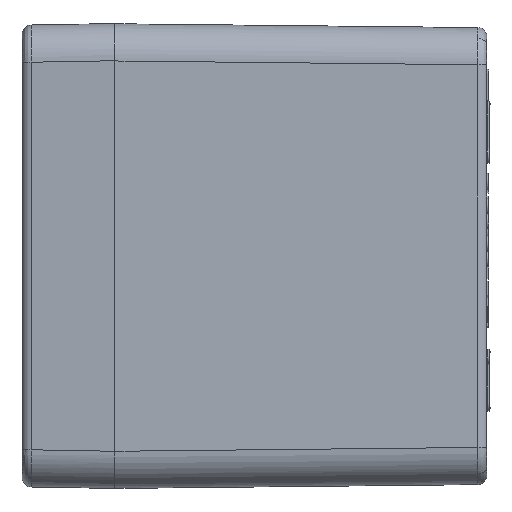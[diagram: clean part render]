
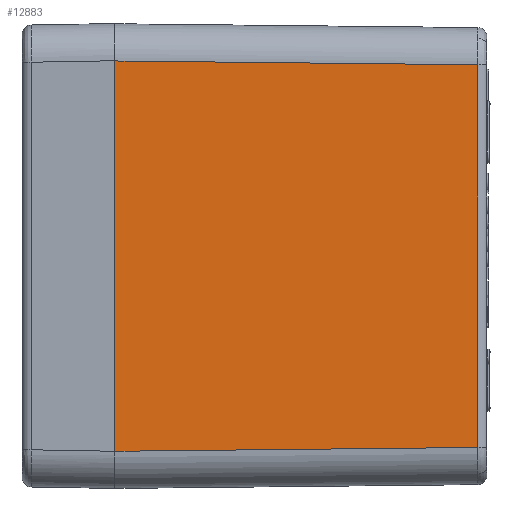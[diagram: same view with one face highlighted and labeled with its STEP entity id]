
A CAD part, left-side view. The second image highlights one B-rep face of the part: STEP entity #12883.
In plain terms, the highlighted planar face has unit normal (-1, -0.011, 0).
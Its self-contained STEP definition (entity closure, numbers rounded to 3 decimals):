
#261 = CARTESIAN_POINT ( 'NONE',  ( -95., 2., -37.5 ) ) ;
#2035 = VECTOR ( 'NONE', #25980, 1000. ) ;
#2364 = ORIENTED_EDGE ( 'NONE', *, *, #37635, .T. ) ;
#5956 = ORIENTED_EDGE ( 'NONE', *, *, #23518, .F. ) ;
#6512 = LINE ( 'NONE', #17986, #32116 ) ;
#6711 = VECTOR ( 'NONE', #29135, 1000. ) ;
#6743 = DIRECTION ( 'NONE',  ( 0.01, -1., 0. ) ) ;
#7068 = FACE_OUTER_BOUND ( 'NONE', #20268, .T. ) ;
#7094 = VERTEX_POINT ( 'NONE', #26423 ) ;
#8933 = DIRECTION ( 'NONE',  ( 0., 0., -1. ) ) ;
#12883 = ADVANCED_FACE ( 'NONE', ( #7068 ), #16047, .T. ) ;
#13809 = LINE ( 'NONE', #35291, #2035 ) ;
#16047 = PLANE ( 'NONE',  #30482 ) ;
#17986 = CARTESIAN_POINT ( 'NONE',  ( -94.982, 0.3, -31.483 ) ) ;
#18817 = ORIENTED_EDGE ( 'NONE', *, *, #25228, .T. ) ;
#19246 = VERTEX_POINT ( 'NONE', #20300 ) ;
#19506 = LINE ( 'NONE', #32549, #6711 ) ;
#20268 = EDGE_LOOP ( 'NONE', ( #21813, #18817, #2364, #5956 ) ) ;
#20300 = CARTESIAN_POINT ( 'NONE',  ( -94.369, -58.216, -30.87 ) ) ;
#21813 = ORIENTED_EDGE ( 'NONE', *, *, #41752, .F. ) ;
#23070 = CARTESIAN_POINT ( 'NONE',  ( -94.369, -58.216, 30.87 ) ) ;
#23518 = EDGE_CURVE ( 'NONE', #35534, #19246, #13809, .T. ) ;
#25228 = EDGE_CURVE ( 'NONE', #7094, #25977, #30136, .T. ) ;
#25977 = VERTEX_POINT ( 'NONE', #29509 ) ;
#25980 = DIRECTION ( 'NONE',  ( 0., 0., -1. ) ) ;
#26423 = CARTESIAN_POINT ( 'NONE',  ( -94.982, 0.3, 31.483 ) ) ;
#29135 = DIRECTION ( 'NONE',  ( 0.01, -1., -0.01 ) ) ;
#29509 = CARTESIAN_POINT ( 'NONE',  ( -94.982, 0.3, -31.483 ) ) ;
#30136 = LINE ( 'NONE', #35573, #34695 ) ;
#30482 = AXIS2_PLACEMENT_3D ( 'NONE', #261, #33057, #6743 ) ;
#30889 = DIRECTION ( 'NONE',  ( 0.01, -1., 0.01 ) ) ;
#32116 = VECTOR ( 'NONE', #30889, 1000. ) ;
#32549 = CARTESIAN_POINT ( 'NONE',  ( -94.992, 1.278, 31.493 ) ) ;
#33057 = DIRECTION ( 'NONE',  ( -1., -0.01, 0. ) ) ;
#34695 = VECTOR ( 'NONE', #8933, 1000. ) ;
#35291 = CARTESIAN_POINT ( 'NONE',  ( -94.369, -58.216, -37.5 ) ) ;
#35534 = VERTEX_POINT ( 'NONE', #23070 ) ;
#35573 = CARTESIAN_POINT ( 'NONE',  ( -94.982, 0.3, -37.5 ) ) ;
#37635 = EDGE_CURVE ( 'NONE', #25977, #19246, #6512, .T. ) ;
#41752 = EDGE_CURVE ( 'NONE', #7094, #35534, #19506, .T. ) ;
